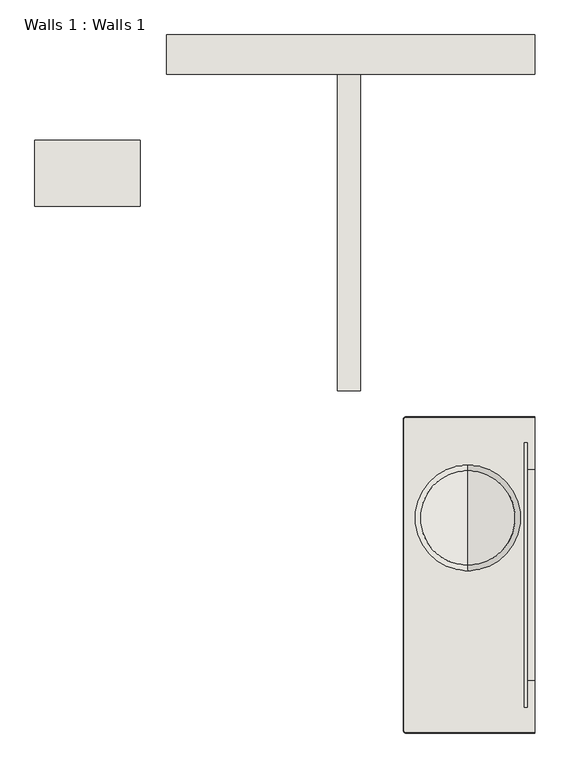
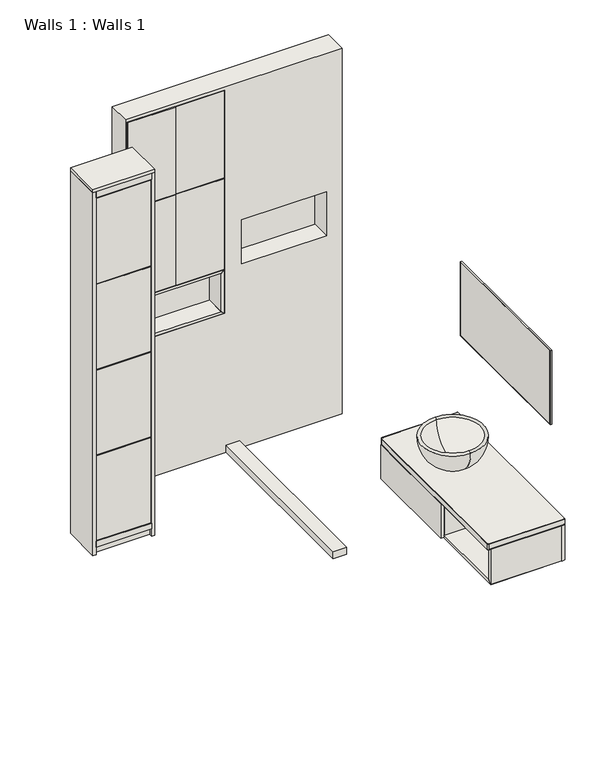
"""IFC4 building model written with IfcOpenShell, lengths in millimetres: wall geometry, Walls 1 : Walls 1."""

from ifc_helpers import new_model, si_unit, point, frame, origin, origin_with_axes, place, context, project, spatial, polyline, circle_curve, ellipse_curve, trimmed, outline, extrude, faceted_brep, source, transform, mapped, element, save
from ifc_brep_helpers import plane_surface, cylinder_surface, revolved_surface, advanced_brep


def walls_1_walls_1_4596b75a(model_context):
    return source(origin(), model_context, "Body", "SolidModel", [
        extrude(outline(polyline([(-1887.6715386, 1210.0517789), (-2287.6715386, 1210.0517789), (-2287.6715386, 1460.0517789), (-1887.6715386, 1460.0517789), (-1887.6715386, 1210.0517789)])), frame((0.0, 0.0, 2479.2928932), z_axis=(0.0, 0.0, 1.0), x_axis=(1.0, 0.0, 0.0)), (0.0, 0.0, 1.0), 20.7071068),
        extrude(outline(polyline([(-407.6715386, -789.9482211), (-407.6715386, 410.0517789), (-387.6715386, 410.0517789), (-387.6715386, -789.9482211), (-407.6715386, -789.9482211)])), frame((0.0, 0.0, 518.0), z_axis=(0.0, 0.0, 1.0), x_axis=(1.0, 0.0, 0.0)), (0.0, 0.0, 1.0), 242.0),
        advanced_brep(
        [(-642.9225817, -153.2489119, 961.276535), (-642.9225817, 206.7510881, 961.276535), (-642.9225817, 26.7510881, 781.276535), (-642.9225817, -173.2489119, 961.276535), (-642.9225817, 226.7510881, 961.276535), (-642.9225817, 26.7510881, 761.276535)],
        [
            (0, 1, circle_curve(frame((-642.9225817, 26.7510881, 961.276535), z_axis=(0.0, 0.0, 1.0), x_axis=(0.0, 1.0, 0.0)), 180.0)),
            (1, 2, circle_curve(frame((-642.9225817, 26.7510881, 961.276535), z_axis=(-1.0, 0.0, 0.0), x_axis=(0.0, -1.0, 0.0)), 180.0)),
            (2, 0, circle_curve(frame((-642.9225817, 26.7510881, 961.276535), z_axis=(-1.0, 0.0, 0.0), x_axis=(0.0, 1.0, 0.0)), 180.0)),
            (1, 0, circle_curve(frame((-642.9225817, 26.7510881, 961.276535), z_axis=(0.0, 0.0, 1.0), x_axis=(0.0, 1.0, 0.0)), 180.0)),
            (3, 4, circle_curve(frame((-642.9225817, 26.7510881, 961.276535), z_axis=(0.0, 0.0, 1.0), x_axis=(0.0, 1.0, 0.0)), 200.0)),
            (4, 1, circle_curve(frame((-642.9225817, 216.7510881, 961.276535), z_axis=(1.0, 0.0, 0.0), x_axis=(0.0, -1.0, 0.0)), 10.0)),
            (0, 3, circle_curve(frame((-642.9225817, -163.2489119, 961.276535), z_axis=(1.0, 0.0, 0.0), x_axis=(0.0, 1.0, 0.0)), 10.0)),
            (4, 3, circle_curve(frame((-642.9225817, 26.7510881, 961.276535), z_axis=(0.0, 0.0, 1.0), x_axis=(0.0, 1.0, 0.0)), 200.0)),
            (5, 4, circle_curve(frame((-642.9225817, 26.7510881, 961.276535), z_axis=(1.0, 0.0, 0.0), x_axis=(0.0, -1.0, 0.0)), 200.0)),
            (3, 5, circle_curve(frame((-642.9225817, 26.7510881, 961.276535), z_axis=(1.0, 0.0, 0.0), x_axis=(0.0, 1.0, 0.0)), 200.0)),
        ],
        [
            revolved_surface(trimmed(ellipse_curve(frame((-642.9225817, 26.7510881, 961.276535), z_axis=(1.0, 0.0, 0.0), x_axis=(0.0, -1.0, 0.0)), 180.0, 180.0), [point((-642.9225817, 26.7510881, 781.276535))], [point((-642.9225817, 206.7510881, 961.276535))], True, "CARTESIAN"), (-642.9225817, 26.7510881, 781.276535), (0.0, 0.0, -1.0)),
            revolved_surface(trimmed(ellipse_curve(frame((-642.9225817, 216.7510881, 961.276535), z_axis=(-1.0, 0.0, 0.0), x_axis=(0.0, -1.0, 0.0)), 10.0, 10.0), [point((-642.9225817, 206.7510881, 961.276535))], [point((-642.9225817, 226.7510881, 961.276535))], True, "CARTESIAN"), (-642.9225817, 26.7510881, 781.276535), (0.0, 0.0, -1.0)),
            revolved_surface(trimmed(ellipse_curve(frame((-642.9225817, 26.7510881, 961.276535), z_axis=(-1.0, 0.0, 0.0), x_axis=(0.0, -1.0, 0.0)), 200.0, 200.0), [point((-642.9225817, 226.7510881, 961.276535))], [point((-642.9225817, 26.7510881, 761.276535))], True, "CARTESIAN"), (-642.9225817, 26.7510881, 781.276535), (0.0, 0.0, -1.0)),
        ],
        [
            (0, [[1, 2, 3]]),
            (0, [[4, -3, -2]]),
            (1, [[5, 6, -1, 7]]),
            (1, [[8, -7, -4, -6]]),
            (2, [[9, -5, 10]]),
            (2, [[-10, -8, -9]]),
        ],
    ),
        faceted_brep([(-867.6715386, 409.3446721, 760.0), (-867.6715386, 389.3446721, 740.0), (-867.6715386, -769.2411144, 740.0), (-867.6715386, -789.2411144, 760.0), (-867.6715386, -787.9482211, 760.0), (-867.6715386, 408.0517789, 760.0), (-407.6715386, -789.2411144, 760.0), (-407.6715386, -769.2411144, 740.0), (-407.6715386, 389.3446721, 740.0), (-407.6715386, 409.3446721, 760.0), (-407.6715386, 408.0517789, 760.0), (-407.6715386, -787.9482211, 760.0)], [[[0, 1, 2, 3, 4, 5]], [[6, 7, 8, 9, 10, 11]], [[3, 6, 11, 10, 9, 0, 5, 4]], [[1, 0, 9, 8]], [[2, 1, 8, 7]], [[3, 2, 7, 6]]]),
        faceted_brep([(-867.6715386, -789.9482211, 759.2928932), (-867.6715386, -769.9482211, 739.2928932), (-867.6715386, -769.9482211, 538.7071068), (-867.6715386, -789.9482211, 518.7071068), (-407.6715386, -789.9482211, 759.2928932), (-407.6715386, -789.9482211, 518.7071068), (-407.6715386, -769.9482211, 538.7071068), (-407.6715386, -769.9482211, 739.2928932)], [[[0, 1, 2, 3]], [[4, 5, 6, 7]], [[1, 0, 4, 7]], [[2, 1, 7, 6]], [[3, 2, 6, 5]], [[0, 3, 5, 4]]]),
        faceted_brep([(-867.6715386, 410.0517789, 759.2928932), (-867.6715386, 410.0517789, 518.7071068), (-867.6715386, 390.0517789, 538.7071068), (-867.6715386, 390.0517789, 739.2928932), (-407.6715386, 410.0517789, 759.2928932), (-407.6715386, 390.0517789, 739.2928932), (-407.6715386, 390.0517789, 538.7071068), (-407.6715386, 410.0517789, 518.7071068)], [[[0, 1, 2, 3]], [[4, 5, 6, 7]], [[1, 0, 4, 7]], [[2, 1, 7, 6]], [[3, 2, 6, 5]], [[0, 3, 5, 4]]]),
        faceted_brep([(-867.6715386, -789.2411144, 518.0), (-867.6715386, -769.2411144, 538.0), (-867.6715386, 389.3446721, 538.0), (-867.6715386, 409.3446721, 518.0), (-407.6715386, -789.2411144, 518.0), (-407.6715386, 409.3446721, 518.0), (-407.6715386, 389.3446721, 538.0), (-407.6715386, -769.2411144, 538.0)], [[[0, 1, 2, 3]], [[4, 5, 6, 7]], [[1, 0, 4, 7]], [[2, 1, 7, 6]], [[3, 2, 6, 5]], [[0, 3, 5, 4]]]),
        faceted_brep([(-867.6715386, -249.9482211, 739.0), (-867.6715386, -249.9482211, 539.0), (-867.6715386, -269.9482211, 539.0), (-867.6715386, -269.9482211, 739.0), (-407.6715386, -249.9482211, 739.0), (-407.6715386, -269.9482211, 739.0), (-407.6715386, -269.9482211, 539.0), (-407.6715386, -249.9482211, 539.0)], [[[0, 1, 2, 3]], [[4, 5, 6, 7]], [[1, 0, 4, 7]], [[2, 1, 7, 6]], [[3, 2, 6, 5]], [[0, 3, 5, 4]]]),
        advanced_brep(
        [(-387.6715386, -787.9482211, 800.0), (-387.6715386, 408.0517789, 800.0), (-877.6715386, 408.0517789, 800.0), (-885.6715386, 400.0517789, 800.0), (-885.6715386, -779.9482211, 800.0), (-877.6715386, -787.9482211, 800.0), (-642.9225817, 116.4112829, 800.0), (-642.9225817, -62.9091068, 800.0), (-387.6715386, 408.0517789, 760.0), (-387.6715386, -787.9482211, 760.0), (-877.6715386, -787.9482211, 760.0), (-885.6715386, -779.9482211, 760.0), (-885.6715386, 400.0517789, 760.0), (-877.6715386, 408.0517789, 760.0), (-877.6715386, -789.9482211, 798.0000002), (-877.6715386, -789.9482211, 762.0), (-387.6715386, -789.9482211, 762.0), (-387.6715386, -789.9482211, 798.0), (-387.6715386, 410.0517789, 762.0), (-387.6715386, 410.0517789, 798.0), (-877.6715386, 410.0517789, 762.0), (-877.6715386, 410.0517789, 798.0), (-887.6715386, 400.0517789, 762.0), (-887.6715386, 400.0517789, 798.0000013), (-887.6715386, -779.9482211, 762.0), (-887.6715386, -779.9482211, 798.0), (-642.9225817, 26.7510881, 778.776535)],
        [
            (0, 1),
            (1, 2),
            (2, 3, circle_curve(frame((-877.6715386, 400.0517789, 800.0), z_axis=(0.0, 0.0, 1.0), x_axis=(0.0, 1.0, 0.0)), 8.0)),
            (3, 4),
            (4, 5, circle_curve(frame((-877.6715386, -779.9482211, 800.0), z_axis=(0.0, 0.0, 1.0), x_axis=(-1.0, 0.0, 0.0)), 8.0)),
            (5, 0),
            (6, 7, circle_curve(frame((-642.9225817, 26.7510881, 800.0), z_axis=(0.0, 0.0, -1.0), x_axis=(0.0, 1.0, 0.0)), 89.6601949)),
            (7, 6, circle_curve(frame((-642.9225817, 26.7510881, 800.0), z_axis=(0.0, 0.0, -1.0), x_axis=(0.0, 1.0, 0.0)), 89.6601949)),
            (8, 9),
            (9, 10),
            (10, 11, circle_curve(frame((-877.6715386, -779.9482211, 760.0), z_axis=(0.0, 0.0, -1.0), x_axis=(-1.0, 0.0, 0.0)), 8.0)),
            (11, 12),
            (12, 13, circle_curve(frame((-877.6715386, 400.0517789, 760.0), z_axis=(0.0, 0.0, -1.0), x_axis=(0.0, 1.0, 0.0)), 8.0)),
            (13, 8),
            (14, 15),
            (15, 16),
            (16, 17),
            (17, 14),
            (0, 17, circle_curve(frame((-387.6715386, -787.9482211, 798.0), z_axis=(1.0, 0.0, 0.0), x_axis=(0.0, 1.0, 0.0)), 2.0)),
            (16, 9, circle_curve(frame((-387.6715386, -787.9482211, 762.0), z_axis=(1.0, 0.0, 0.0), x_axis=(0.0, 1.0, 0.0)), 2.0)),
            (8, 18, circle_curve(frame((-387.6715386, 408.0517789, 762.0), z_axis=(1.0, 0.0, 0.0), x_axis=(0.0, -1.0, 0.0)), 2.0)),
            (18, 19),
            (19, 1, circle_curve(frame((-387.6715386, 408.0517789, 798.0), z_axis=(1.0, 0.0, 0.0), x_axis=(0.0, -1.0, 0.0)), 2.0)),
            (18, 20),
            (20, 21),
            (21, 19),
            (20, 22, circle_curve(frame((-877.6715386, 400.0517789, 762.0), z_axis=(0.0, 0.0, 1.0), x_axis=(1.0, 0.0, 0.0)), 10.0)),
            (22, 23),
            (23, 21, circle_curve(frame((-877.6715386, 400.0517789, 798.0), z_axis=(0.0, 0.0, -1.0), x_axis=(1.0, 0.0, 0.0)), 10.0)),
            (22, 24),
            (24, 25),
            (25, 23),
            (14, 25, circle_curve(frame((-877.6715386, -779.9482211, 798.0), z_axis=(0.0, 0.0, -1.0), x_axis=(1.0, 0.0, 0.0)), 10.0)),
            (24, 15, circle_curve(frame((-877.6715386, -779.9482211, 762.0), z_axis=(0.0, 0.0, 1.0), x_axis=(1.0, 0.0, 0.0)), 10.0)),
            (21, 2, circle_curve(frame((-877.6715386, 408.0517789, 798.0), z_axis=(1.0, 0.0, 0.0), x_axis=(0.0, -1.0, 0.0)), 2.0)),
            (13, 20, circle_curve(frame((-877.6715386, 408.0517789, 762.0), z_axis=(1.0, 0.0, 0.0), x_axis=(0.0, -1.0, 0.0)), 2.0)),
            (23, 3, circle_curve(frame((-885.6715386, 400.0517789, 798.0), z_axis=(0.0, 1.0, 0.0), x_axis=(1.0, 0.0, 0.0)), 2.0)),
            (12, 22, circle_curve(frame((-885.6715386, 400.0517789, 762.0), z_axis=(0.0, 1.0, 0.0), x_axis=(1.0, 0.0, 0.0)), 2.0)),
            (25, 4, circle_curve(frame((-885.6715386, -779.9482211, 798.0), z_axis=(0.0, 1.0, 0.0), x_axis=(1.0, 0.0, 0.0)), 2.0)),
            (11, 24, circle_curve(frame((-885.6715386, -779.9482211, 762.0), z_axis=(0.0, 1.0, 0.0), x_axis=(1.0, 0.0, 0.0)), 2.0)),
            (14, 5, circle_curve(frame((-877.6715386, -787.9482211, 798.0), z_axis=(-1.0, 0.0, 0.0), x_axis=(0.0, 1.0, 0.0)), 2.0)),
            (10, 15, circle_curve(frame((-877.6715386, -787.9482211, 762.0), z_axis=(-1.0, 0.0, 0.0), x_axis=(0.0, 1.0, 0.0)), 2.0)),
            (26, 7, circle_curve(frame((-642.9225817, 26.7510881, 978.776535), z_axis=(-1.0, 0.0, 0.0), x_axis=(0.0, 1.0, 0.0)), 200.0)),
            (6, 26, circle_curve(frame((-642.9225817, 26.7510881, 978.776535), z_axis=(-1.0, 0.0, 0.0), x_axis=(0.0, -1.0, 0.0)), 200.0)),
        ],
        [
            plane_surface(frame((-387.6715386, -789.9482211, 800.0), z_axis=(0.0, 0.0, 1.0), x_axis=(1.0, 0.0, 0.0))),
            plane_surface(frame((-387.6715386, -789.9482211, 760.0), z_axis=(0.0, 0.0, -1.0), x_axis=(-1.0, 0.0, 0.0))),
            plane_surface(frame((-877.6715386, -789.9482211, 800.0), z_axis=(0.0, -1.0, 0.0), x_axis=(0.0, 0.0, -1.0))),
            plane_surface(frame((-387.6715386, -789.9482211, 800.0), z_axis=(1.0, 0.0, 0.0), x_axis=(0.0, 0.0, -1.0))),
            plane_surface(frame((-387.6715386, 410.0517789, 800.0), z_axis=(0.0, 1.0, 0.0), x_axis=(0.0, 0.0, -1.0))),
            cylinder_surface(frame((-877.6715386, 400.0517789, 760.0), z_axis=(0.0, 0.0, 1.0), x_axis=(1.0, 0.0, 0.0)), 10.0),
            plane_surface(frame((-887.6715386, 400.0517789, 800.0), z_axis=(-1.0, 0.0, 0.0), x_axis=(0.0, 0.0, -1.0))),
            cylinder_surface(frame((-877.6715386, -779.9482211, 760.0), z_axis=(0.0, 0.0, 1.0), x_axis=(1.0, 0.0, 0.0)), 10.0),
            cylinder_surface(frame((-387.6715386, 408.0517789, 798.0), z_axis=(-1.0, 0.0, 0.0), x_axis=(0.0, -1.0, 0.0)), 2.0),
            cylinder_surface(frame((-387.6715386, 408.0517789, 762.0), z_axis=(-1.0, 0.0, 0.0), x_axis=(0.0, -1.0, 0.0)), 2.0),
            revolved_surface(trimmed(ellipse_curve(frame((-877.6715386, 408.0517789, 798.0), z_axis=(1.0, 0.0, 0.0), x_axis=(0.0, -1.0, 0.0)), 2.0, 2.0), [point((-877.6715386, 410.0517789, 798.0))], [point((-877.6715386, 408.0517789, 800.0))], True, "CARTESIAN"), (-877.6715386, 400.0517789, 800.0), (0.0, 0.0, 1.0)),
            revolved_surface(trimmed(ellipse_curve(frame((-877.6715386, 408.0517789, 762.0), z_axis=(1.0, 0.0, 0.0), x_axis=(0.0, -1.0, 0.0)), 2.0, 2.0), [point((-877.6715386, 408.0517789, 760.0))], [point((-877.6715386, 410.0517789, 762.0))], True, "CARTESIAN"), (-877.6715386, 400.0517789, 800.0), (0.0, 0.0, 1.0)),
            cylinder_surface(frame((-885.6715386, 400.0517789, 798.0), z_axis=(0.0, -1.0, 0.0), x_axis=(1.0, 0.0, 0.0)), 2.0),
            cylinder_surface(frame((-885.6715386, 400.0517789, 762.0), z_axis=(0.0, -1.0, 0.0), x_axis=(1.0, 0.0, 0.0)), 2.0),
            revolved_surface(trimmed(ellipse_curve(frame((-885.6715386, -779.9482211, 798.0), z_axis=(0.0, 1.0, 0.0), x_axis=(1.0, 0.0, 0.0)), 2.0, 2.0), [point((-887.6715386, -779.9482211, 798.0))], [point((-885.6715386, -779.9482211, 800.0))], True, "CARTESIAN"), (-877.6715386, -779.9482211, 800.0), (0.0, 0.0, 1.0)),
            revolved_surface(trimmed(ellipse_curve(frame((-885.6715386, -779.9482211, 762.0), z_axis=(0.0, 1.0, 0.0), x_axis=(1.0, 0.0, 0.0)), 2.0, 2.0), [point((-885.6715386, -779.9482211, 760.0))], [point((-887.6715386, -779.9482211, 762.0))], True, "CARTESIAN"), (-877.6715386, -779.9482211, 800.0), (0.0, 0.0, 1.0)),
            cylinder_surface(frame((-877.6715386, -787.9482211, 798.0), z_axis=(1.0, 0.0, 0.0), x_axis=(0.0, 1.0, 0.0)), 2.0),
            cylinder_surface(frame((-877.6715386, -787.9482211, 762.0), z_axis=(1.0, 0.0, 0.0), x_axis=(0.0, 1.0, 0.0)), 2.0),
            revolved_surface(trimmed(ellipse_curve(frame((-642.9225817, 26.7510881, 978.776535), z_axis=(1.0, 0.0, 0.0), x_axis=(0.0, -1.0, 0.0)), 200.0, 200.0), [point((-642.9225817, 26.7510881, 778.776535))], [point((-642.9225817, 226.7510881, 978.776535))], True, "CARTESIAN"), (-642.9225817, 26.7510881, 798.776535), (0.0, 0.0, -1.0)),
        ],
        [
            (0, [[1, 2, 3, 4, 5, 6], [7, 8]]),
            (1, [[9, 10, 11, 12, 13, 14]]),
            (2, [[15, 16, 17, 18]]),
            (3, [[-1, 19, -17, 20, -9, 21, 22, 23]]),
            (4, [[-22, 24, 25, 26]]),
            (5, [[-25, 27, 28, 29]]),
            (6, [[-28, 30, 31, 32]]),
            (7, [[-15, 33, -31, 34]]),
            (8, [[35, -2, -23, -26]]),
            (9, [[36, -24, -21, -14]]),
            (10, [[-35, -29, 37, -3]]),
            (11, [[-36, -13, 38, -27]]),
            (12, [[-37, -32, 39, -4]]),
            (13, [[-38, -12, 40, -30]]),
            (14, [[-39, -33, 41, -5]]),
            (15, [[-40, -11, 42, -34]]),
            (16, [[-41, -18, -19, -6]]),
            (17, [[-42, -10, -20, -16]]),
            (18, [[43, -7, 44]]),
            (18, [[-43, -44, -8]]),
        ],
    ),
        extrude(outline(polyline([(312.0517789, 1398.0), (-691.9482211, 1398.0), (-691.9482211, 1902.0), (312.0517789, 1902.0), (312.0517789, 1398.0)]), holes=[polyline([(310.0517789, 1900.0), (-689.9482211, 1900.0), (-689.9482211, 1400.0), (310.0517789, 1400.0), (310.0517789, 1900.0)])]), frame((-427.6715386, 0.0, 0.0), z_axis=(1.0, 0.0, 0.0), x_axis=(0.0, 1.0, 0.0)), (0.0, 0.0, 1.0), 10.0),
        extrude(outline(polyline([(-417.6715386, -589.9482211), (-417.6715386, 210.0517789), (-387.6715386, 210.0517789), (-387.6715386, -589.9482211), (-417.6715386, -589.9482211)])), frame((0.0, 0.0, 1500.0), z_axis=(0.0, 0.0, 1.0), x_axis=(1.0, 0.0, 0.0)), (0.0, 0.0, 1.0), 300.0),
        extrude(outline(polyline([(-427.6715386, -689.9482211), (-427.6715386, 310.0517789), (-417.6715386, 310.0517789), (-417.6715386, -689.9482211), (-427.6715386, -689.9482211)])), frame((0.0, 0.0, 1400.0), z_axis=(0.0, 0.0, 1.0), x_axis=(1.0, 0.0, 0.0)), (0.0, 0.0, 1.0), 500.0),
        extrude(outline(polyline([(-887.6715386, -264.9482211), (-887.6715386, 405.0517789), (-867.6715386, 405.0517789), (-867.6715386, -264.9482211), (-887.6715386, -264.9482211)])), frame((0.0, 0.0, 523.0), z_axis=(0.0, 0.0, 1.0), x_axis=(1.0, 0.0, 0.0)), (0.0, 0.0, 1.0), 232.0),
        extrude(outline(polyline([(-1051.3727697, 510.0517789), (-1137.6715386, 510.0517789), (-1137.6715386, 1710.0517789), (-1051.3727697, 1710.0517789), (-1051.3727697, 510.0517789)])), origin_with_axes(), (0.0, 0.0, 1.0), 50.0),
        extrude(outline(polyline([(-1907.6715386, 1230.0517789), (-2267.6715386, 1230.0517789), (-2267.6715386, 1250.0517789), (-1907.6715386, 1250.0517789), (-1907.6715386, 1230.0517789)])), origin_with_axes(), (0.0, 0.0, 1.0), 50.0),
        faceted_brep([(-387.6715386, 1710.0517789, 2500.0), (-1787.6715386, 1710.0517789, 2500.0), (-1787.6715386, 1710.0517789, 0.0), (-387.6715386, 1710.0517789, 0.0), (-1777.6715386, 1710.0517789, 2480.0), (-1147.6715386, 1710.0517789, 2480.0), (-1147.6715386, 1710.0517789, 954.3381512), (-1777.6715386, 1710.0517789, 954.3381512), (-1037.6715386, 1710.0517789, 1254.3381512), (-1037.6715386, 1710.0517789, 1554.3381512), (-487.6715386, 1710.0517789, 1554.3381512), (-487.6715386, 1710.0517789, 1254.3381512), (-1787.6715386, 1860.0517789, 2500.0), (-1787.6715386, 1860.0517789, 0.0), (-387.6715386, 1860.0517789, 0.0), (-387.6715386, 1860.0517789, 2500.0), (-1777.6715386, 1860.0517789, 2480.0), (-1147.6715386, 1860.0517789, 2480.0), (-1147.6715386, 1860.0517789, 954.3381512), (-1777.6715386, 1860.0517789, 954.3381512), (-1037.6715386, 1840.0517789, 1254.3381512), (-1037.6715386, 1840.0517789, 1554.3381512), (-487.6715386, 1840.0517789, 1554.3381512), (-487.6715386, 1840.0517789, 1254.3381512)], [[[0, 1, 2, 3], [4, 5, 6, 7], [8, 9, 10, 11]], [[2, 1, 12, 13]], [[3, 2, 13, 14]], [[0, 3, 14, 15]], [[5, 4, 16, 17]], [[6, 5, 17, 18]], [[7, 6, 18, 19]], [[4, 7, 19, 16]], [[9, 8, 20, 21]], [[10, 9, 21, 22]], [[11, 10, 22, 23]], [[8, 11, 23, 20]], [[21, 20, 23, 22]], [[15, 14, 13, 12], [16, 19, 18, 17]], [[1, 0, 15, 12]]]),
        extrude(outline(polyline([(-1909.6715386, 1230.0517789), (-2265.6715386, 1230.0517789), (-2265.6715386, 1460.0517789), (-1909.6715386, 1460.0517789), (-1909.6715386, 1230.0517789)])), frame((0.0, 0.0, 670.0), z_axis=(0.0, 0.0, 1.0), x_axis=(1.0, 0.0, 0.0)), (0.0, 0.0, 1.0), 20.0),
        extrude(outline(polyline([(-1909.6715386, 1230.0517789), (-2265.6715386, 1230.0517789), (-2265.6715386, 1460.0517789), (-1909.6715386, 1460.0517789), (-1909.6715386, 1230.0517789)])), frame((0.0, 0.0, 1255.0), z_axis=(0.0, 0.0, 1.0), x_axis=(1.0, 0.0, 0.0)), (0.0, 0.0, 1.0), 20.0),
        extrude(outline(polyline([(-1909.6715386, 1230.0517789), (-2265.6715386, 1230.0517789), (-2265.6715386, 1460.0517789), (-1909.6715386, 1460.0517789), (-1909.6715386, 1230.0517789)])), frame((0.0, 0.0, 1840.0), z_axis=(0.0, 0.0, 1.0), x_axis=(1.0, 0.0, 0.0)), (0.0, 0.0, 1.0), 20.0),
        extrude(outline(polyline([(-1912.6715386, 1210.0517789), (-2262.6715386, 1210.0517789), (-2262.6715386, 1230.0517789), (-1912.6715386, 1230.0517789), (-1912.6715386, 1210.0517789)])), frame((0.0, 0.0, 1850.0), z_axis=(0.0, 0.0, 1.0), x_axis=(1.0, 0.0, 0.0)), (0.0, 0.0, 1.0), 585.0),
        extrude(outline(polyline([(-1913.6715386, 1210.0517789), (-2261.6715386, 1210.0517789), (-2261.6715386, 1230.0517789), (-1913.6715386, 1230.0517789), (-1913.6715386, 1210.0517789)])), frame((0.0, 0.0, 95.0), z_axis=(0.0, 0.0, 1.0), x_axis=(1.0, 0.0, 0.0)), (0.0, 0.0, 1.0), 580.0),
        extrude(outline(polyline([(-1912.6715386, 1210.0517789), (-2262.6715386, 1210.0517789), (-2262.6715386, 1230.0517789), (-1912.6715386, 1230.0517789), (-1912.6715386, 1210.0517789)])), frame((0.0, 0.0, 680.0), z_axis=(0.0, 0.0, 1.0), x_axis=(1.0, 0.0, 0.0)), (0.0, 0.0, 1.0), 580.0),
        extrude(outline(polyline([(-1912.6715386, 1210.0517789), (-2262.6715386, 1210.0517789), (-2262.6715386, 1230.0517789), (-1912.6715386, 1230.0517789), (-1912.6715386, 1210.0517789)])), frame((0.0, 0.0, 1265.0), z_axis=(0.0, 0.0, 1.0), x_axis=(1.0, 0.0, 0.0)), (0.0, 0.0, 1.0), 580.0),
        extrude(outline(polyline([(-1908.6715386, 1210.0517789), (-2266.6715386, 1210.0517789), (-2266.6715386, 1460.0517789), (-1908.6715386, 1460.0517789), (-1908.6715386, 1210.0517789)])), frame((0.0, 0.0, 2440.0), z_axis=(0.0, 0.0, 1.0), x_axis=(1.0, 0.0, 0.0)), (0.0, 0.0, 1.0), 40.0),
        extrude(outline(polyline([(-1908.6715386, 1210.0517789), (-2266.6715386, 1210.0517789), (-2266.6715386, 1460.0517789), (-1908.6715386, 1460.0517789), (-1908.6715386, 1210.0517789)])), frame((0.0, 0.0, 50.0), z_axis=(0.0, 0.0, 1.0), x_axis=(1.0, 0.0, 0.0)), (0.0, 0.0, 1.0), 40.0),
        extrude(outline(polyline([(-1887.6715386, 1210.0517789), (-1907.6715386, 1210.0517789), (-1907.6715386, 1460.0517789), (-1887.6715386, 1460.0517789), (-1887.6715386, 1210.0517789)])), origin_with_axes(), (0.0, 0.0, 1.0), 2480.0),
        extrude(outline(polyline([(-2267.6715386, 1210.0517789), (-2287.6715386, 1210.0517789), (-2287.6715386, 1460.0517789), (-2267.6715386, 1460.0517789), (-2267.6715386, 1210.0517789)])), origin_with_axes(), (0.0, 0.0, 1.0), 2480.0),
        extrude(outline(polyline([(-1147.6715386, 1840.0517789), (-1777.6715386, 1840.0517789), (-1777.6715386, 1860.0517789), (-1147.6715386, 1860.0517789), (-1147.6715386, 1840.0517789)])), frame((0.0, 0.0, 954.3381512), z_axis=(0.0, 0.0, 1.0), x_axis=(1.0, 0.0, 0.0)), (0.0, 0.0, 1.0), 1525.6618488),
        extrude(outline(polyline([(-1150.3786453, 1710.0517789), (-1460.1715386, 1710.0517789), (-1460.1715386, 1730.0517789), (-1150.3786453, 1730.0517789), (-1150.3786453, 1710.0517789)])), frame((0.0, 0.0, 1880.6690756), z_axis=(0.0, 0.0, 1.0), x_axis=(1.0, 0.0, 0.0)), (0.0, 0.0, 1.0), 594.3309244),
        extrude(outline(polyline([(-1150.3786453, 1710.0517789), (-1460.1715386, 1710.0517789), (-1460.1715386, 1730.0517789), (-1150.3786453, 1730.0517789), (-1150.3786453, 1710.0517789)])), frame((0.0, 0.0, 1256.3381512), z_axis=(0.0, 0.0, 1.0), x_axis=(1.0, 0.0, 0.0)), (0.0, 0.0, 1.0), 619.3309244),
        extrude(outline(polyline([(-1465.1715386, 1710.0517789), (-1774.9644318, 1710.0517789), (-1774.9644318, 1730.0517789), (-1465.1715386, 1730.0517789), (-1465.1715386, 1710.0517789)])), frame((0.0, 0.0, 1256.3381512), z_axis=(0.0, 0.0, 1.0), x_axis=(1.0, 0.0, 0.0)), (0.0, 0.0, 1.0), 619.3309244),
        extrude(outline(polyline([(-1465.1715386, 1710.0517789), (-1774.9644318, 1710.0517789), (-1774.9644318, 1730.0517789), (-1465.1715386, 1730.0517789), (-1465.1715386, 1710.0517789)])), frame((0.0, 0.0, 1880.6690756), z_axis=(0.0, 0.0, 1.0), x_axis=(1.0, 0.0, 0.0)), (0.0, 0.0, 1.0), 594.3309244),
        extrude(outline(polyline([(1257.045258, -1147.6715386), (2479.2928932, -1147.6715386), (2459.2928932, -1167.6715386), (1277.045258, -1167.6715386), (1257.045258, -1147.6715386)])), frame((0.0, 1730.0517789, 0.0), z_axis=(0.0, 1.0, 0.0), x_axis=(0.0, 0.0, 1.0)), (0.0, 0.0, 1.0), 110.0),
        extrude(outline(polyline([(1256.3381512, -1776.9644318), (1256.3381512, -1148.3786453), (1276.3381512, -1168.3786453), (1276.3381512, -1756.9644318), (1256.3381512, -1776.9644318)])), frame((0.0, 1730.0517789, 0.0), z_axis=(0.0, 1.0, 0.0), x_axis=(0.0, 0.0, 1.0)), (0.0, 0.0, 1.0), 110.0),
        extrude(outline(polyline([(2480.0, -1148.3786453), (2480.0, -1776.9644318), (2460.0, -1756.9644318), (2460.0, -1168.3786453), (2480.0, -1148.3786453)])), frame((0.0, 1730.0517789, 0.0), z_axis=(0.0, 1.0, 0.0), x_axis=(0.0, 0.0, 1.0)), (0.0, 0.0, 1.0), 110.0),
        extrude(outline(polyline([(2479.2928932, -1777.6715386), (1257.045258, -1777.6715386), (1277.045258, -1757.6715386), (2459.2928932, -1757.6715386), (2479.2928932, -1777.6715386)])), frame((0.0, 1730.0517789, 0.0), z_axis=(0.0, 1.0, 0.0), x_axis=(0.0, 0.0, 1.0)), (0.0, 0.0, 1.0), 110.0),
        extrude(outline(polyline([(-1168.6715386, 1730.0517789), (-1756.6715386, 1730.0517789), (-1756.6715386, 1840.0517789), (-1168.6715386, 1840.0517789), (-1168.6715386, 1730.0517789)])), frame((0.0, 0.0, 1868.1690756), z_axis=(0.0, 0.0, 1.0), x_axis=(1.0, 0.0, 0.0)), (0.0, 0.0, 1.0), 20.0),
        extrude(outline(polyline([(955.045258, -1149.6715386), (1253.6310444, -1149.6715386), (1233.6310444, -1169.6715386), (975.045258, -1169.6715386), (955.045258, -1149.6715386)])), frame((0.0, 1710.0517789, 0.0), z_axis=(0.0, 1.0, 0.0), x_axis=(0.0, 0.0, 1.0)), (0.0, 0.0, 1.0), 130.0),
        extrude(outline(polyline([(954.3381512, -1774.9644318), (954.3381512, -1150.3786453), (974.3381512, -1170.3786453), (974.3381512, -1754.9644318), (954.3381512, -1774.9644318)])), frame((0.0, 1710.0517789, 0.0), z_axis=(0.0, 1.0, 0.0), x_axis=(0.0, 0.0, 1.0)), (0.0, 0.0, 1.0), 130.0),
        extrude(outline(polyline([(1254.3381512, -1150.3786453), (1254.3381512, -1774.9644318), (1234.3381512, -1754.9644318), (1234.3381512, -1170.3786453), (1254.3381512, -1150.3786453)])), frame((0.0, 1710.0517789, 0.0), z_axis=(0.0, 1.0, 0.0), x_axis=(0.0, 0.0, 1.0)), (0.0, 0.0, 1.0), 130.0),
        extrude(outline(polyline([(1253.6310444, -1775.6715386), (955.045258, -1775.6715386), (975.045258, -1755.6715386), (1233.6310444, -1755.6715386), (1253.6310444, -1775.6715386)])), frame((0.0, 1710.0517789, 0.0), z_axis=(0.0, 1.0, 0.0), x_axis=(0.0, 0.0, 1.0)), (0.0, 0.0, 1.0), 130.0),
    ])


if __name__ == "__main__":
    model = new_model("IFC4")
    model_context = context("Model", 3, world=origin())
    ifc_project = project(units=[si_unit("LENGTHUNIT", "METRE", prefix="MILLI")], contexts=[model_context])
    site = spatial("IfcSite", under=ifc_project)
    building = spatial("IfcBuilding", under=site)
    placement = place(None, origin())
    walls_1_walls_1_shape = walls_1_walls_1_4596b75a(model_context)
    element("IfcWall", 1, ObjectType="Walls 1 : Walls 1", at=placement, inside=building, context=model_context, shape_type="MappedRepresentation", body=[
        mapped(walls_1_walls_1_shape, transform((0.0, 0.0, 0.0), x_axis=(1.0, 0.0, 0.0), y_axis=(0.0, 1.0, 0.0), z_axis=(0.0, 0.0, 1.0))),
    ])
    save(model, "model.ifc")
